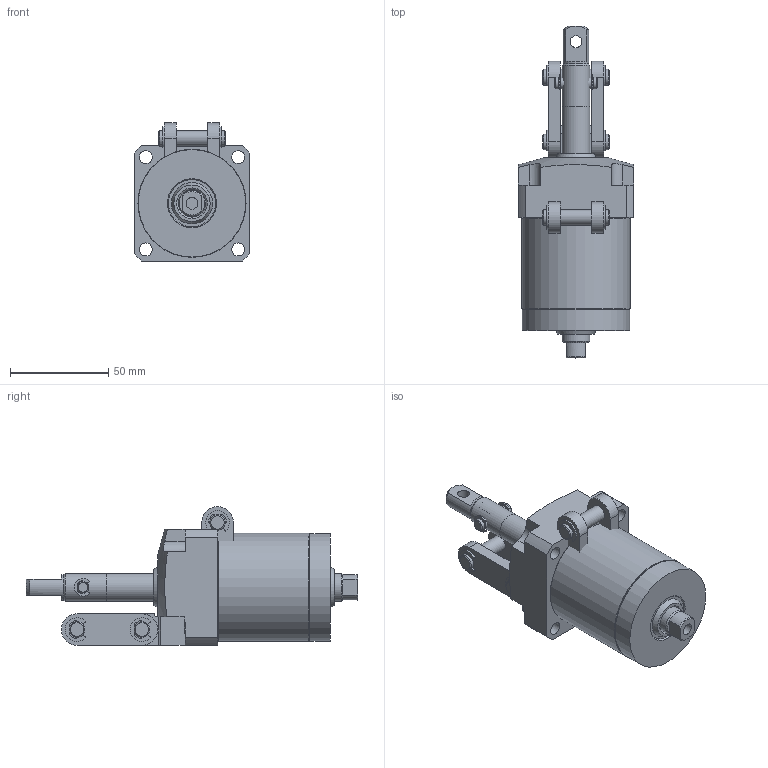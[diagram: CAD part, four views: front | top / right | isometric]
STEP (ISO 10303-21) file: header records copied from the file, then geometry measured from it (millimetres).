
FILE_DESCRIPTION( ( '' ), '1' );
FILE_NAME( 'W:/Catalogue/JL5H/JL5H34-25KRD/JL5H34-25KRD.stp', '2008-05-26T01:36:37', ( '機械事業部産業機器グループ' ), ( '豊和工業株式会社' ), 'XStep 1.0', ' ', ' ' );
FILE_SCHEMA( ( 'CONFIG_CONTROL_DESIGN' ) );
Length unit declared in the file: millimetre
Products named in the file (5): Assem1; 1; 2; 3; 4
Bounding box: 59 x 169 x 70.5 mm (x, y, z)
Volume: 457865.6 mm3; surface area: 102239.4 mm2
Topology: 8 solids, 12 shells, 578 faces, 1484 edges, 968 vertices
Faces by surface type: plane 286, cylinder 232, cone 56, torus 4
Full cylindrical faces by diameter (mm): 2 x2, 4 x4, 6 x18, 6.6 x8, 8 x14, 8.3 x4, 13 x2, 14 x8, 16 x4, 20 x4, 24 x8, 34 x4, 54 x4, 54.7 x2, 55 x2
Entity records: 8656 total; most frequent: CARTESIAN_POINT 1555, DIRECTION 1516, ORIENTED_EDGE 1292, EDGE_CURVE 646, AXIS2_PLACEMENT_3D 603, VERTEX_POINT 460, EDGE_LOOP 405, FACE_OUTER_BOUND 335
